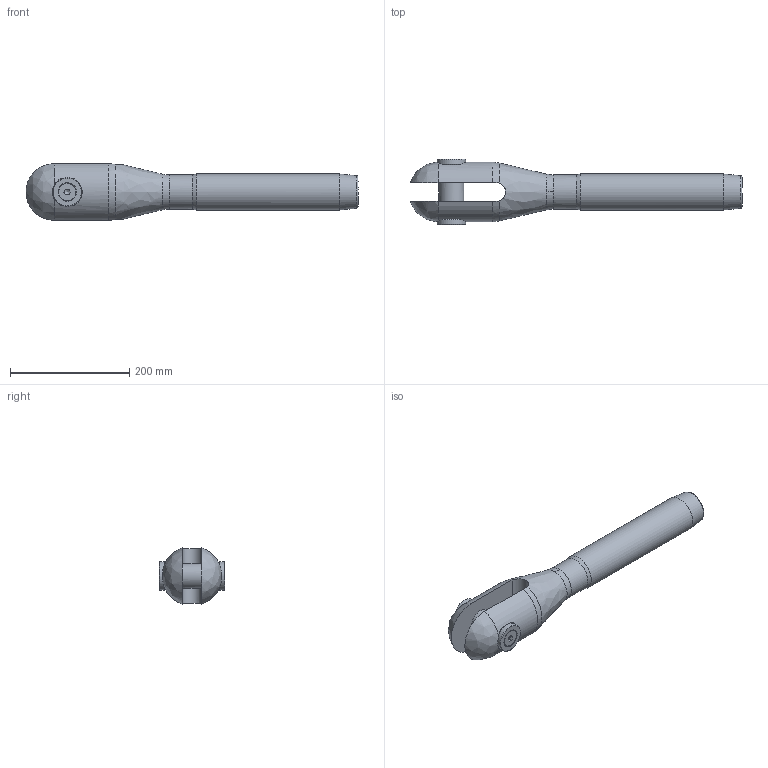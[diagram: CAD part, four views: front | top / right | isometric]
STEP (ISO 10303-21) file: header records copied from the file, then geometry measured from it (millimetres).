
FILE_DESCRIPTION(/* description */ (''),/* implementation_level */ '2;1');
FILE_NAME(/* name */ 'MAC 30_1,4418',/* time_stamp */ '2023-05-23T16:54:56+02:00',/* author */ (''),/* organization */ (''),/* preprocessor_version */ 'ST-DEVELOPER v16.5',/* originating_system */ 'Rhino 7.22',/* authorisation */ '');
FILE_SCHEMA (('CONFIG_CONTROL_DESIGN'));
Length unit declared in the file: millimetre
Products named in the file (1): Document
Bounding box: 557.34 x 109.8 x 94.74 mm (x, y, z)
Volume: 1965092.7 mm3; surface area: 183992.6 mm2
Topology: 6 solids, 6 shells, 75 faces, 210 edges, 145 vertices
Faces by surface type: plane 29, bspline 24, cylinder 22
Full cylindrical faces by diameter (mm): 13.835 x2, 16 x2, 17 x2, 29.01 x2, 42 x1, 44 x2, 48 x2, 57.2 x1, 60.5 x1
Entity records: 3162 total; most frequent: CARTESIAN_POINT 1815, ORIENTED_EDGE 412, EDGE_CURVE 206, VERTEX_POINT 145, EDGE_LOOP 85, B_SPLINE_CURVE_WITH_KNOTS 84, ADVANCED_FACE 75, FACE_OUTER_BOUND 75
